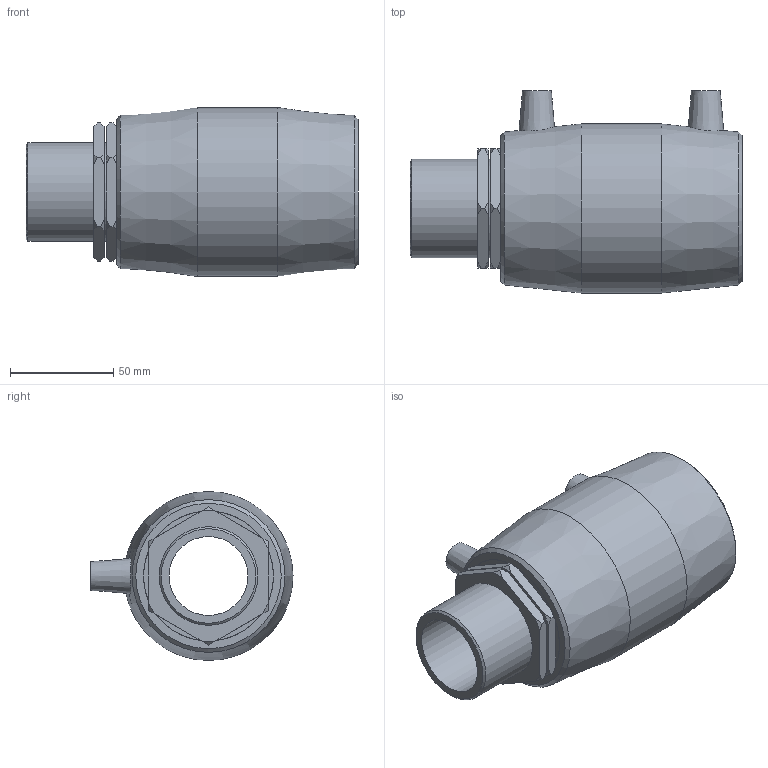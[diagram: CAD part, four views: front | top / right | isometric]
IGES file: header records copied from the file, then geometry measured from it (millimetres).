
Global section: file name: 497104063015.ipt; native system: Autodesk Inventor 2015; preprocessor: unknown; author: KIM; date: 20171106.094430; units: millimetre
Bounding box: 161 x 98 x 82 mm (x, y, z)
Volume: 330468.5 mm3; surface area: 76756.1 mm2
Topology: 1 solids, 2 shells, 86 faces, 210 edges, 138 vertices
Faces by surface type: plane 40, cone 31, revolution 8, cylinder 7
Full cylindrical faces by diameter (mm): 4 x2, 47.803 x2, 63 x2, 82 x1
